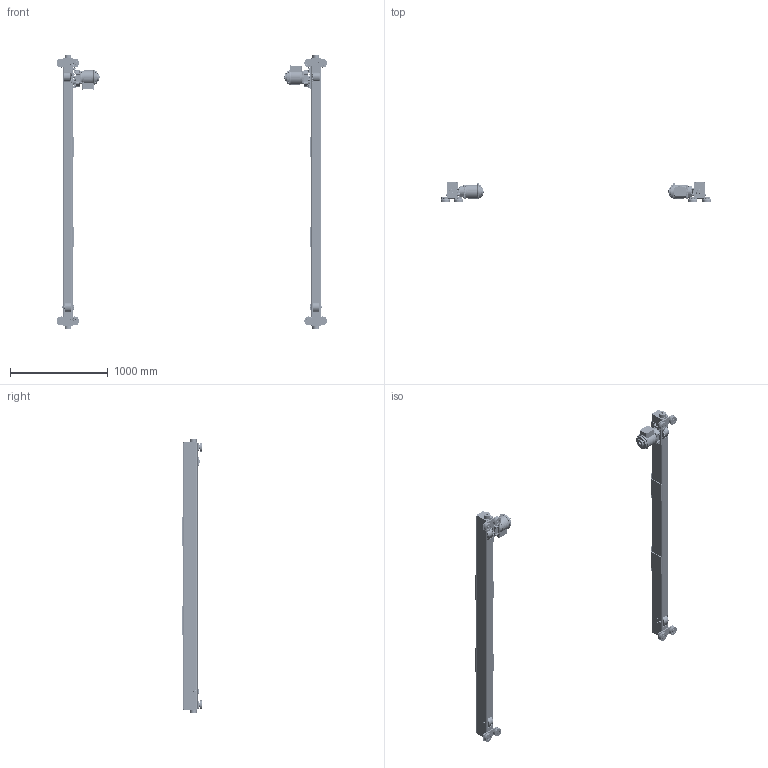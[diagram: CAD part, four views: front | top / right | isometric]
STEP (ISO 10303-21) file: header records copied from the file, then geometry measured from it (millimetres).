
FILE_DESCRIPTION (( 'STEP AP214' ), '1' );
FILE_NAME ('MTMH-3-0160.STEP', '2026-08-14T17:21:45', ( '' ), ( '' ), 'SwSTEP 2.0', 'SolidWorks 2026', '' );
FILE_SCHEMA (( 'AUTOMOTIVE_DESIGN' ));
Length unit declared in the file: millimetre
Products named in the file (64): 9093101_9093101; G1JE025S9707; 9047125_B27.7M - 3AM1-23; 6240823; 6240817X_6240817B; 9000705; G1JE025S9310; MS555010_MS555010; N6Q0310E9102_Domestic; 6240805X_6240805B; 62418_6241802; 6240802; 9091273_9091273; T7G117010; 62419 LEFT HAND ASSY_6241903; N6QL210207; N6QO3101101; 62419 RIGHT HAND ASSY_6241904; 9000605; MTMH-3-0160; G1JE025S9303; N6QO3101102; N6QO310E9108_N6QO3101108 DOMESTIC; G1JE025S9301; 6240806; 62416_6241602; 6240826; 62415 - TUBE_107.125; 6240822; G1JE025S9603; 6240803; 9093330_9093330; 6240805X_6240805A; G1JE025S9701; 9091254_9091254; G1JE025S9401; G1JE025S9610; G1JE040S9609; G1JE025S9604; 6240814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
Assembly tree (210 placements, depth 6):
  MTMH-3-0160
    MTMX-3-0160_MTMX-0160
      62419 LEFT HAND ASSY_6241903
        62417_6241702
          62415_6241502
            62415 - TUBE_107.125
            6240822
            6240823
            6240823
          6240813  x2
          6240806  x2
          T7G117010
          6240802
          6240803
          6240804
          6240817X_6240817B  x2
            6240805X_6240805B
            6232305
        N6QL210207  x2
        N6QO3101108_N6QO3101108  x4
          N6QO310E9108_N6QO3101108 DOMESTIC
          9047252_9047252
          9000605
        9047125_B27.7M - 3AM1-23  x4
        9093101_9093101  x2
        9012514_9012514  x2
        9012711_9012711  x5
        6240825
        6240826
        9093327_9093327  x3
        6240814  x2
        N6QO3101102
          N6Q0310E9102_Domestic
          9000705  x2
        N6QO3101101
          N6QO310E91012
          9000705  x2
      62419 RIGHT HAND ASSY_6241904
        62418_6241802
          62416_6241602
            62415 - TUBE_107.125
            6240822
            6240823
            6240823
          T7G117010
          6240802
          6240803
          6240804
          6240817X_6240817A  x2
            6240805X_6240805A
            6232305
          6240806  x2
          6240813  x2
        N6QL210207  x2
        9012711_9012711  x5
        9012514_9012514  x2
        9093101_9093101  x2
        N6QO3101108_N6QO3101108  x4
          N6QO310E9108_N6QO3101108 DOMESTIC
          9047252_9047252
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Bounding box: 2770.76 x 210.99 x 2818.03 mm (x, y, z)
Volume: 30112047.7 mm3; surface area: 7960032.1 mm2
Topology: 210 solids, 274 shells, 14833 faces, 38380 edges, 24816 vertices
Faces by surface type: plane 8289, cylinder 3318, bspline 1610, torus 740, cone 690, sphere 186
Entity records: 153835 total; most frequent: CARTESIAN_POINT 60247, ORIENTED_EDGE 19292, DIRECTION 18061, EDGE_CURVE 9650, AXIS2_PLACEMENT_3D 6877, VERTEX_POINT 6183, VECTOR 4307, LINE 4307
